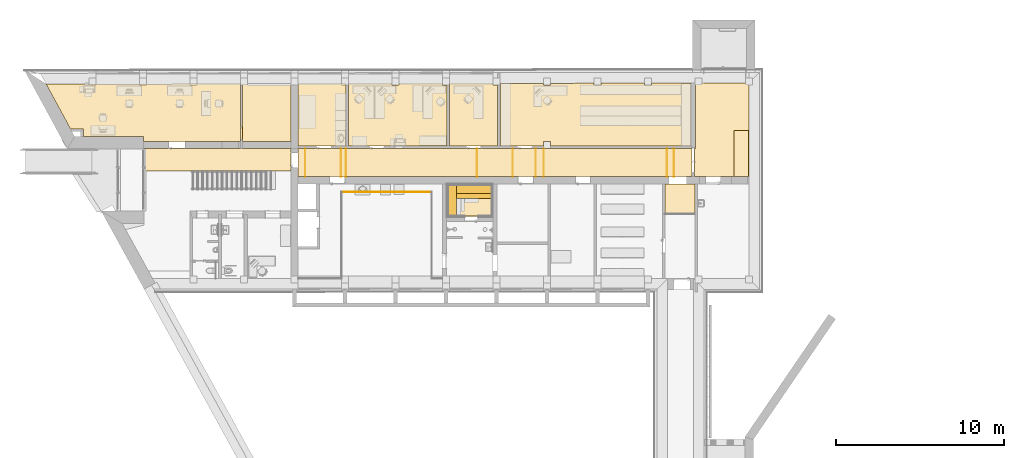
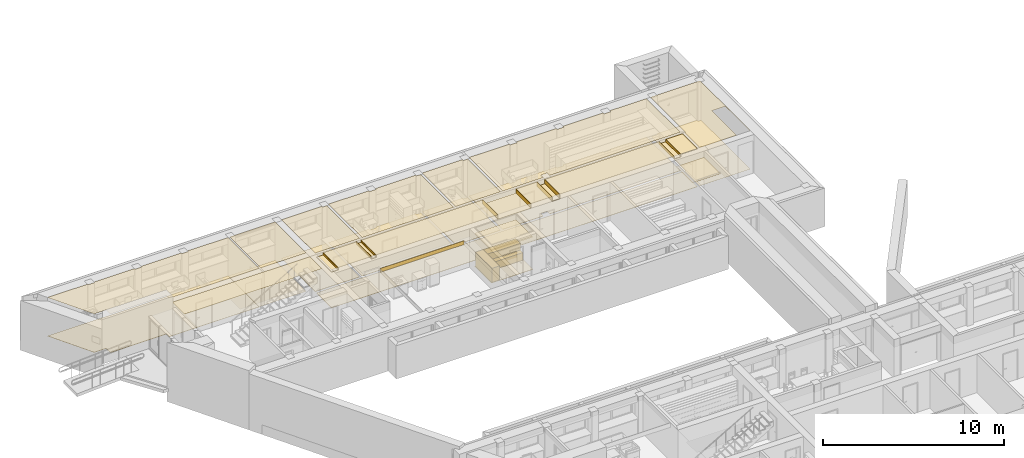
# One storey, part 71 of 127: 42 coverings.
"""IFC2X3 building model written with IfcOpenShell, lengths in millimetres."""

from ifc_helpers import new_model, entity, si_unit, converted_unit, derived_unit, money_unit, direction, frame, origin_with_axes, place, context, subcontext, project, spatial, polyline, outline, extrude, material, type_object, element, save


model = new_model("IFC2X3")

# Units and contexts
model_context = context("Model", 3, precision=1e-05, world=origin_with_axes(), true_north=direction((0.0, 1.0)))
body_context = subcontext(model_context, "Body", "Model", "MODEL_VIEW")
ifc_project = project(units=[si_unit("LENGTHUNIT", "METRE", prefix="MILLI"), si_unit("AREAUNIT", "SQUARE_METRE"), si_unit("VOLUMEUNIT", "CUBIC_METRE"), converted_unit("PLANEANGLEUNIT", "DEGREE", entity("IfcPlaneAngleMeasure", 0.0174532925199), si_unit("PLANEANGLEUNIT", "RADIAN"), dimensions=[0, 0, 0, 0, 0, 0, 0]), si_unit("SOLIDANGLEUNIT", "STERADIAN"), money_unit("EUR"), converted_unit("TIMEUNIT", "Year", entity("IfcTimeMeasure", 31556926.0), si_unit("TIMEUNIT", "SECOND"), dimensions=[0, 0, 1, 0, 0, 0, 0]), si_unit("MASSUNIT", "GRAM", prefix="KILO"), si_unit("THERMODYNAMICTEMPERATUREUNIT", "DEGREE_CELSIUS"), si_unit("LUMINOUSINTENSITYUNIT", "LUMEN"), si_unit("ENERGYUNIT", "JOULE", prefix="MEGA"), derived_unit("THERMALCONDUCTANCEUNIT", [(si_unit("POWERUNIT", "WATT"), 1), (si_unit("LENGTHUNIT", "METRE"), -1), (si_unit("THERMODYNAMICTEMPERATUREUNIT", "KELVIN"), -1)]), derived_unit("SPECIFICHEATCAPACITYUNIT", [(si_unit("ENERGYUNIT", "JOULE"), 1), (si_unit("MASSUNIT", "GRAM", prefix="KILO"), -1), (si_unit("THERMODYNAMICTEMPERATUREUNIT", "KELVIN"), -1)]), derived_unit("MASSDENSITYUNIT", [(si_unit("MASSUNIT", "GRAM", prefix="KILO"), 1), (si_unit("VOLUMEUNIT", "CUBIC_METRE"), -1)])], contexts=[model_context])

# Site, building, storey
site_placement = place(None, origin_with_axes())
site = spatial("IfcSite", under=ifc_project, at=site_placement, Name="Site", CompositionType="ELEMENT")
building_placement = place(site_placement, origin_with_axes())
building = spatial("IfcBuilding", under=site, at=building_placement, Name="Building", CompositionType="ELEMENT")
storey_placement = place(building_placement, origin_with_axes())
storey = spatial("IfcBuildingStorey", under=building, at=storey_placement, Name="1 KORRUS", CompositionType="ELEMENT", Elevation=0.0)

# Coverings
ifc_material_1 = material(Name="Värv")
covering_type_1 = type_object("IfcCoveringType", Name="L-3", PredefinedType="CLADDING")
covering_1_placement = place(storey_placement, frame((15738.082149, 65961.3642064, 2600.0), z_axis=(0.0, 0.0, 1.0), x_axis=(1.0, 0.0, 0.0)))
element("IfcCovering", 1, at=covering_1_placement, inside=storey, type_object=covering_type_1, material=ifc_material_1, Name="Konstruktiivne lagi lauspahtel, värvitud", PredefinedType="CLADDING", context=body_context, shape_type="SweptSolid", body=[
    extrude(outline(polyline([(0.0, 0.0), (0.0, 1337.86329044), (-8755.71034468, 1337.39906333), (-8755.71034468, 1315.38871641), (-8792.82891972, 1315.38871641), (-8792.82891972, 0.0), (0.0, 0.0)])), frame((0.0, 0.0, -1.0), z_axis=(0.0, 0.0, 1.0), x_axis=(1.0, 0.0, 0.0)), (0.0, 0.0, 1.0), 1.0),
])
covering_2_placement = place(storey_placement, frame((1183.02725516, 71149.0340953, 2600.0), z_axis=(0.0, 0.0, 1.0), x_axis=(1.0, 0.0, 0.0)))
element("IfcCovering", 2, at=covering_2_placement, inside=storey, type_object=covering_type_1, material=ifc_material_1, Name="Konstruktiivne lagi lauspahtel, värvitud", PredefinedType="CLADDING", context=body_context, shape_type="SweptSolid", body=[
    extrude(outline(polyline([(0.0, 0.0), (1447.72645574, -2666.7938435), (2211.53884324, -2666.7938435), (2211.53884324, -3132.28097708), (5800.13989265, -3132.28097708), (5800.13989265, -3430.27084441), (11557.8860243, -3429.96560299), (11557.8860243, -56.3931797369), (11560.0368394, 14.3487582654), (8980.03887547, 11.1464795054), (8978.92109242, -59.594424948), (8558.92113143, -59.594424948), (8558.92113143, -58.3920631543), (8558.49065835, 10.6231592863), (5978.49252215, 7.420708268), (5979.08371207, -61.5943419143), (5559.08357883, -61.5943419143), (5559.08357883, 6.90014417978), (2977.45450259, 3.69579832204), (2977.53942585, -61.5943419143), (2557.53946486, -61.5943419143), (2557.53946486, 3.17454520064), (0.0, 0.0)])), frame((0.0, 0.0, -1.0), z_axis=(0.0, 0.0, 1.0), x_axis=(1.0, 0.0, 0.0)), (0.0, 0.0, 1.0), 1.0),
])
covering_3_placement = place(storey_placement, frame((18741.6522749, 71088.8316168, 2600.0), z_axis=(0.0, 0.0, 1.0), x_axis=(1.0, 0.0, 0.0)))
element("IfcCovering", 3, at=covering_3_placement, inside=storey, type_object=covering_type_1, material=ifc_material_1, Name="Konstruktiivne lagi lauspahtel, värvitud", PredefinedType="CLADDING", context=body_context, shape_type="SweptSolid", body=[
    extrude(outline(polyline([(0.0, 0.0), (-3.60689345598, 81.9925428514), (-2582.95753997, 78.7909270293), (-2582.76045012, -3639.23988193), (269.11560463, -3639.23988193), (269.115586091, -2.16386979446e-05), (0.0, 0.0)])), frame((0.0, 0.0, -1.0), z_axis=(0.0, 0.0, 1.0), x_axis=(1.0, 0.0, 0.0)), (0.0, 0.0, 1.0), 1.0),
])
covering_4_placement = place(storey_placement, frame((19160.7678672, 67449.4236553, 2600.0), z_axis=(0.0, 0.0, 1.0), x_axis=(1.0, 0.0, 0.0)))
element("IfcCovering", 4, at=covering_4_placement, inside=storey, type_object=covering_type_1, material=ifc_material_1, Name="Konstruktiivne lagi lauspahtel, värvitud", PredefinedType="CLADDING", context=body_context, shape_type="SweptSolid", body=[
    extrude(outline(polyline([(0.0, 0.0), (5849.98550255, 0.168079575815), (5849.98550255, 3638.9168919), (5580.8790138, 3639.52117681), (5580.10420247, 3728.85147138), (3000.10618995, 3725.64906673), (2999.74919026, 3638.84019604), (2579.74919026, 3638.84019604), (2580.12005054, 3725.12776184), (0.1220380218, 3721.92535719), (0.0, 0.0)])), frame((0.0, 0.0, -1.0), z_axis=(0.0, 0.0, 1.0), x_axis=(1.0, 0.0, 0.0)), (0.0, 0.0, 1.0), 1.0),
])
covering_5_placement = place(storey_placement, frame((25160.7533698, 67449.5917349, 2600.0), z_axis=(0.0, 0.0, 1.0), x_axis=(1.0, 0.0, 0.0)))
element("IfcCovering", 5, at=covering_5_placement, inside=storey, type_object=covering_type_1, material=ifc_material_1, Name="Konstruktiivne lagi lauspahtel, värvitud", PredefinedType="CLADDING", context=body_context, shape_type="SweptSolid", body=[
    extrude(outline(polyline([(0.0, 0.0), (2849.39446856, 0.0), (2849.39446856, 3643.50998437), (2579.39446856, 3642.78145329), (2581.23370122, 3732.408505), (1.23568869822, 3729.20610035), (0.0, 0.0)])), frame((0.0, 0.0, -1.0), z_axis=(0.0, 0.0, 1.0), x_axis=(1.0, 0.0, 0.0)), (0.0, 0.0, 1.0), 1.0),
])
covering_type_2 = type_object("IfcCoveringType", Name="L-5", PredefinedType="CLADDING")
covering_6_placement = place(storey_placement, frame((39573.3287234, 71196.3690374, 2600.0), z_axis=(0.0, 0.0, 1.0), x_axis=(1.0, 0.0, 0.0)))
element("IfcCovering", 6, at=covering_6_placement, inside=storey, type_object=covering_type_2, material=ifc_material_1, Name="Konstruktiivne lagi kaetud tolmutõkkega ja värvitud", PredefinedType="CLADDING", context=body_context, shape_type="SweptSolid", body=[
    extrude(outline(polyline([(180.116590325, 0.0), (180.116590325, -3896.77726113), (130.117016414, -3896.77726113), (130.315520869, -5559.99998133), (2486.30377841, -5559.99998133), (2486.30377841, -2828.76823996), (3337.05605903, -2828.76823996), (3337.05605903, -5559.99998133), (3364.40871248, -5559.99998133), (3364.39146565, 4.49280089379), (180.116590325, 0.0)])), frame((0.0, 0.0, -1.0), z_axis=(0.0, 0.0, 1.0), x_axis=(1.0, 0.0, 0.0)), (0.0, 0.0, 1.0), 1.0),
])
covering_7_placement = place(storey_placement, frame((15738.6947366, 71167.1012365, 2600.0), z_axis=(0.0, 0.0, 1.0), x_axis=(1.0, 0.0, 0.0)))
element("IfcCovering", 7, at=covering_7_placement, inside=storey, type_object=covering_type_2, material=ifc_material_1, Name="Konstruktiivne lagi kaetud tolmutõkkega ja värvitud", PredefinedType="CLADDING", context=body_context, shape_type="SweptSolid", body=[
    extrude(outline(polyline([(0.0, 0.0), (-2897.7814965, -3.59683311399), (-2897.7814965, -3448.02734377), (0.182808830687, -3447.87371859), (0.0, 0.0)])), frame((0.0, 0.0, -1.0), z_axis=(0.0, 0.0, 1.0), x_axis=(1.0, 0.0, 0.0)), (0.0, 0.0, 1.0), 1.0),
])
covering_8_placement = place(storey_placement, frame((28159.6030909, 71182.688757, 2600.0), z_axis=(0.0, 0.0, 1.0), x_axis=(1.0, 0.0, 0.0)))
element("IfcCovering", 8, at=covering_8_placement, inside=storey, type_object=covering_type_2, material=ifc_material_1, Name="Konstruktiivne lagi kaetud tolmutõkkega ja värvitud", PredefinedType="CLADDING", context=body_context, shape_type="SweptSolid", body=[
    extrude(outline(polyline([(0.0, 0.0), (0.0, -3730.72729824), (2581.09073914, -3732.84076262), (2581.02194125, -3448.74385242), (3002.37368264, -3448.64175432), (3002.43859268, -3733.09702208), (11343.8421925, -3733.09702208), (11343.8421925, 8.07115873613), (8998.79024898, 12.0947364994), (9000.38497877, -90.315568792), (8580.38497877, -90.315568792), (8582.18563077, 10.482424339), (6000.96162197, 7.83484559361), (6000.46617575, -90.3155697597), (5582.87921712, -90.2466028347), (5582.52593066, 6.98611290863), (3002.2298325, 3.55636065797), (3000.54724236, -90.3155697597), (2580.54728652, -90.3155697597), (2580.54728652, 0.0), (0.0, 0.0)])), frame((0.0, 0.0, -1.0), z_axis=(0.0, 0.0, 1.0), x_axis=(1.0, 0.0, 0.0)), (0.0, 0.0, 1.0), 1.0),
])
ifc_material_2 = material(Name="Betoon - Ol.Olev konstruktsioon")
covering_type_3 = type_object("IfcCoveringType", Name="P-3", PredefinedType="NOTDEFINED")
covering_9_placement = place(storey_placement, frame((28159.6030909, 71182.688757, 0.0), z_axis=(0.0, 0.0, 1.0), x_axis=(1.0, 0.0, 0.0)))
element("IfcCovering", 9, at=covering_9_placement, inside=storey, type_object=covering_type_3, material=ifc_material_2, Name="Betoon - Ol.Olev konstruktsioon", PredefinedType="NOTDEFINED", context=body_context, shape_type="SweptSolid", body=[
    extrude(outline(polyline([(0.0, 0.0), (0.0, -3730.72729823), (2581.09073914, -3732.84076262), (2581.02194125, -3448.74385242), (3002.37368264, -3448.64175432), (3002.43859268, -3733.09702208), (11343.8421925, -3733.09702208), (11343.8421925, 8.07115873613), (8998.79024898, 12.0947365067), (9000.3849401, -90.3155697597), (8580.38498426, -90.3155697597), (8582.18556194, 10.4824655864), (6000.96162197, 7.83484559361), (6000.46617575, -90.3155697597), (5582.87921712, -90.2466028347), (5582.52593067, 6.98611291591), (3002.2298325, 3.55636065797), (3000.54724236, -90.3155697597), (2580.54728652, -90.3155697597), (2580.54728652, 0.0), (0.0, 0.0)])), frame((0.0, 0.0, -20.0), z_axis=(0.0, 0.0, 1.0), x_axis=(1.0, 0.0, 0.0)), (0.0, 0.0, 1.0), 20.0),
])
ifc_material_3 = material(Name="Puit - Konstruktsioon (1)")
covering_10_placement = place(storey_placement, frame((25075.1366535, 63317.8824025, 0.0), z_axis=(0.0, 0.0, 1.0), x_axis=(1.0, 0.0, 0.0)))
element("IfcCovering", 10, at=covering_10_placement, inside=storey, type_object=covering_type_3, material=ifc_material_3, Name="Puit - Konstruktsioon (1)", PredefinedType="NOTDEFINED", context=body_context, shape_type="SweptSolid", body=[
    extrude(outline(polyline([(0.0, 0.0), (500.0, 0.0), (500.0, 1811.48665511), (0.0, 1811.48665511), (0.0, 0.0)])), origin_with_axes(), (0.0, 0.0, 1.0), 950.0),
])
ifc_material_4 = material(Name="Kipsplaat")
covering_type_4 = type_object("IfcCoveringType", Name="L-4", PredefinedType="CEILING")
covering_11_placement = place(storey_placement, frame((38500.574353, 65636.3690561, 2550.0), z_axis=(0.0, 0.0, 1.0), x_axis=(1.0, 0.0, 0.0)))
element("IfcCovering", 11, at=covering_11_placement, inside=storey, type_object=covering_type_4, material=ifc_material_4, Name="Ripplagi", PredefinedType="CEILING", context=body_context, shape_type="SweptSolid", body=[
    extrude(outline(polyline([(0.0, 0.0), (1052.27443769, 0.0), (1052.07594285, 1663.20478481), (0.0, 1663.22155023), (0.0, 0.0)])), origin_with_axes(), (0.0, 0.0, 1.0), 15.0),
])
covering_12_placement = place(storey_placement, frame((28924.5252262, 65636.3690561, 2550.0), z_axis=(0.0, 0.0, 1.0), x_axis=(1.0, 0.0, 0.0)))
element("IfcCovering", 12, at=covering_12_placement, inside=storey, type_object=covering_type_4, material=ifc_material_4, Name="Ripplagi", PredefinedType="CEILING", context=body_context, shape_type="SweptSolid", body=[
    extrude(outline(polyline([(0.0, 0.0), (1337.16135864, 0.0), (1337.16135864, 1663.22258173), (0.0, 1663.22258173), (0.0, 0.0)])), origin_with_axes(), (0.0, 0.0, 1.0), 15.0),
])
covering_13_placement = place(storey_placement, frame((38064.8385158, 67299.5917236, 2550.0), z_axis=(0.0, 0.0, 1.0), x_axis=(1.0, 0.0, 0.0)))
element("IfcCovering", 13, at=covering_13_placement, inside=storey, type_object=covering_type_4, material=ifc_material_4, Name="Ripplagi", PredefinedType="CEILING", context=body_context, shape_type="SweptSolid", body=[
    extrude(outline(polyline([(0.0, 0.0), (-7303.86304197, 0.0), (-7303.86304197, -1663.22266751), (0.0, -1663.22266751), (0.0, 0.0)])), origin_with_axes(), (0.0, 0.0, 1.0), 15.0),
])
covering_14_placement = place(storey_placement, frame((26797.6733887, 67299.5915736, 2550.0), z_axis=(0.0, 0.0, 1.0), x_axis=(1.0, 0.0, 0.0)))
element("IfcCovering", 14, at=covering_14_placement, inside=storey, type_object=covering_type_4, material=ifc_material_4, Name="Ripplagi", PredefinedType="CEILING", context=body_context, shape_type="SweptSolid", body=[
    extrude(outline(polyline([(0.0, 0.0), (-7784.64764503, 0.0), (-7784.64764503, -1663.22259291), (0.0, -1663.22259291), (0.0, 0.0)])), origin_with_axes(), (0.0, 0.0, 1.0), 15.0),
])
covering_15_placement = place(storey_placement, frame((16597.6648176, 67299.5915736, 2550.0), z_axis=(0.0, 0.0, 1.0), x_axis=(1.0, 0.0, 0.0)))
element("IfcCovering", 15, at=covering_15_placement, inside=storey, type_object=covering_type_4, material=ifc_material_4, Name="Ripplagi", PredefinedType="CEILING", context=body_context, shape_type="SweptSolid", body=[
    extrude(outline(polyline([(0.0, 0.0), (-0.147140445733, -1663.22259291), (2119.11913881, -1663.22259291), (2119.11913881, 0.0), (0.0, 0.0)])), origin_with_axes(), (0.0, 0.0, 1.0), 15.0),
])
covering_type_5 = type_object("IfcCoveringType", Name="P-5", PredefinedType="NOTDEFINED")
covering_16_placement = place(storey_placement, frame((25038.1366503, 63280.8823993, 0.0), z_axis=(0.0, 0.0, 1.0), x_axis=(1.0, 0.0, 0.0)))
element("IfcCovering", 16, at=covering_16_placement, inside=storey, type_object=covering_type_5, material=ifc_material_2, Name="Betoon - Ol.Olev konstruktsioon", PredefinedType="NOTDEFINED", context=body_context, shape_type="SweptSolid", body=[
    extrude(outline(polyline([(0.0, 0.0), (2646.5908115, 0.0), (2646.5908115, 1885.48665838), (0.0, 1885.48665838), (0.0, 0.0)])), frame((0.0, 0.0, -20.0), z_axis=(0.0, 0.0, 1.0), x_axis=(1.0, 0.0, 0.0)), (0.0, 0.0, 1.0), 20.0),
])
covering_type_6 = type_object("IfcCoveringType", Name="P-2", PredefinedType="NOTDEFINED")
covering_17_placement = place(storey_placement, frame((25163.8036057, 67449.5917349, 0.0), z_axis=(0.0, 0.0, 1.0), x_axis=(1.0, 0.0, 0.0)))
element("IfcCovering", 17, at=covering_17_placement, inside=storey, type_object=covering_type_6, material=ifc_material_2, Name="Betoon - Ol.Olev konstruktsioon", PredefinedType="NOTDEFINED", context=body_context, shape_type="SweptSolid", body=[
    extrude(outline(polyline([(0.0, 0.0), (2846.344228, 0.0), (2846.344228, 3643.50998437), (2576.34423478, 3642.78143222), (2578.16731981, 3731.64038558), (0.0, 3731.87977495), (0.0, 0.0)])), frame((0.0, 0.0, -20.0), z_axis=(0.0, 0.0, 1.0), x_axis=(1.0, 0.0, 0.0)), (0.0, 0.0, 1.0), 20.0),
])
covering_18_placement = place(storey_placement, frame((19160.7678672, 67449.591735, 0.0), z_axis=(0.0, 0.0, 1.0), x_axis=(1.0, 0.0, 0.0)))
element("IfcCovering", 18, at=covering_18_placement, inside=storey, type_object=covering_type_6, material=ifc_material_2, Name="Betoon - Ol.Olev konstruktsioon", PredefinedType="NOTDEFINED", context=body_context, shape_type="SweptSolid", body=[
    extrude(outline(polyline([(0.0, 0.0), (5849.98550255, 0.0), (5849.98550255, 3638.74881226), (5580.87900392, 3639.35308621), (5580.10425819, 3728.68342945), (2999.64141054, 3725.48041018), (2999.74916202, 3638.6721012), (2579.74921715, 3638.6721012), (2580.12044095, 3724.95968268), (0.122043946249, 3721.75725597), (0.0, 0.0)])), frame((0.0, 0.0, -20.0), z_axis=(0.0, 0.0, 1.0), x_axis=(1.0, 0.0, 0.0)), (0.0, 0.0, 1.0), 20.0),
])
covering_19_placement = place(storey_placement, frame((19010.7678796, 71171.1626746, 0.0), z_axis=(0.0, 0.0, 1.0), x_axis=(1.0, 0.0, 0.0)))
element("IfcCovering", 19, at=covering_19_placement, inside=storey, type_object=covering_type_6, material=ifc_material_2, Name="Betoon - Ol.Olev konstruktsioon", PredefinedType="NOTDEFINED", context=body_context, shape_type="SweptSolid", body=[
    extrude(outline(polyline([(0.0, 0.0), (-2852.0731446, -3.54013071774), (-2851.87605475, -3721.57093968), (0.0, -3721.57093968), (0.0, 0.0)])), frame((0.0, 0.0, -20.0), z_axis=(0.0, 0.0, 1.0), x_axis=(1.0, 0.0, 0.0)), (0.0, 0.0, 1.0), 20.0),
])
covering_20_placement = place(storey_placement, frame((1183.02725516, 71149.0340424, 0.0), z_axis=(0.0, 0.0, 1.0), x_axis=(1.0, 0.0, 0.0)))
element("IfcCovering", 20, at=covering_20_placement, inside=storey, type_object=covering_type_6, material=ifc_material_2, Name="Betoon - Ol.Olev konstruktsioon", PredefinedType="NOTDEFINED", context=body_context, shape_type="SweptSolid", body=[
    extrude(outline(polyline([(0.0, 0.0), (1447.7264541, -2666.79384457), (2211.53881358, -2666.79384457), (2211.53881358, -3132.28099957), (5800.13989026, -3132.28099957), (5800.13989026, -3430.27070763), (11557.8859849, -3429.96552301), (11557.8859849, 14.3462607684), (0.0, 0.0)])), frame((0.0, 0.0, -20.0), z_axis=(0.0, 0.0, 1.0), x_axis=(1.0, 0.0, 0.0)), (0.0, 0.0, 1.0), 20.0),
])
covering_21_placement = place(storey_placement, frame((25574.8828577, 65129.3690426, 0.0), z_axis=(0.0, 0.0, 1.0), x_axis=(1.0, 0.0, 0.0)))
element("IfcCovering", 21, at=covering_21_placement, inside=storey, type_object=covering_type_6, material=ifc_material_3, Name="Puit - Konstruktsioon (1)", PredefinedType="NOTDEFINED", context=body_context, shape_type="SweptSolid", body=[
    extrude(outline(polyline([(0.0, 0.0), (0.0, -499.999985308), (2072.84460081, -499.999985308), (2072.84460081, 0.0), (0.0, 0.0)])), origin_with_axes(), (0.0, 0.0, 1.0), 950.0),
])
covering_type_7 = type_object("IfcCoveringType", Name="P-4", PredefinedType="NOTDEFINED")
covering_22_placement = place(storey_placement, frame((12743.0640946, 67719.2275328, 0.0), z_axis=(0.0, 0.0, 1.0), x_axis=(1.0, 0.0, 0.0)))
element("IfcCovering", 22, at=covering_22_placement, inside=storey, type_object=covering_type_7, material=ifc_material_2, Name="Betoon - Ol.Olev konstruktsioon", PredefinedType="NOTDEFINED", context=body_context, shape_type="SweptSolid", body=[
    extrude(outline(polyline([(0.0, 0.0), (2995.81346117, 0.0), (2995.81346117, 3444.15539794), (0.0, 3444.15539794), (0.0, 0.0)])), frame((0.0, 0.0, -2.0), z_axis=(0.0, 0.0, 1.0), x_axis=(1.0, 0.0, 0.0)), (0.0, 0.0, 1.0), 2.0),
])
covering_23_placement = place(storey_placement, frame((25574.8828577, 64329.3690573, 0.0), z_axis=(0.0, 0.0, 1.0), x_axis=(1.0, 0.0, 0.0)))
element("IfcCovering", 23, at=covering_23_placement, inside=storey, type_object=covering_type_7, material=ifc_material_3, Name="Puit - Konstruktsioon (1)", PredefinedType="NOTDEFINED", context=body_context, shape_type="SweptSolid", body=[
    extrude(outline(polyline([(0.0, 0.0), (2077.15596552, 0.0), (2077.15596552, 300.0), (0.0, 300.0), (0.0, 0.0)])), origin_with_axes(), (0.0, 0.0, 1.0), 500.0),
])
covering_type_8 = type_object("IfcCoveringType", Name="P-1", PredefinedType="NOTDEFINED")
covering_24_placement = place(storey_placement, frame((39703.445749, 67299.5858257, 0.0), z_axis=(0.0, 0.0, 1.0), x_axis=(1.0, 0.0, 0.0)))
element("IfcCovering", 24, at=covering_24_placement, inside=storey, type_object=covering_type_8, material=ifc_material_2, Name="Betoon - Ol.Olev konstruktsioon", PredefinedType="NOTDEFINED", context=body_context, shape_type="SweptSolid", body=[
    extrude(outline(polyline([(0.0, 0.0), (0.198495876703, -1663.21676967), (3234.29065877, -1663.21676967), (3234.27457347, 3791.28045382), (3039.7275539, 3792.78749687), (3040.56606217, 3901.0355734), (460.59417764, 3897.83318983), (457.315679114, 3792.78749687), (50.2006354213, 3786.91246665), (49.9994862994, 0.00596979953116), (0.0, 0.0)])), frame((0.0, 0.0, -2.0), z_axis=(0.0, 0.0, 1.0), x_axis=(1.0, 0.0, 0.0)), (0.0, 0.0, 1.0), 2.0),
])
covering_25_placement = place(storey_placement, frame((16158.8775557, 65636.3690561, 0.0), z_axis=(0.0, 0.0, 1.0), x_axis=(1.0, 0.0, 0.0)))
element("IfcCovering", 25, at=covering_25_placement, inside=storey, type_object=covering_type_8, material=ifc_material_2, Name="Põrandakate", PredefinedType="NOTDEFINED", context=body_context, shape_type="SweptSolid", body=[
    extrude(outline(polyline([(0.0, 0.0), (23394.7666711, 0.0), (23394.5681936, 1663.20477877), (0.0, 1663.22267884), (0.0, 0.0)])), frame((0.0, 0.0, -20.0), z_axis=(0.0, 0.0, 1.0), x_axis=(1.0, 0.0, 0.0)), (0.0, 0.0, 1.0), 20.0),
])
covering_type_9 = type_object("IfcCoveringType", Name="L-6", PredefinedType="CEILING")
covering_26_placement = place(storey_placement, frame((18703.7839564, 65636.3690561, 2400.0), z_axis=(0.0, 0.0, 1.0), x_axis=(1.0, 0.0, 0.0)))
element("IfcCovering", 26, at=covering_26_placement, inside=storey, type_object=covering_type_9, material=ifc_material_4, Name="Kahekordne kipsplaadist ripplagi", PredefinedType="CEILING", context=body_context, shape_type="SweptSolid", body=[
    extrude(outline(polyline([(0.0, 0.0), (309.241787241, 0.0), (309.241787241, 1663.22267884), (0.0, 1663.22267884), (0.0, 0.0)])), origin_with_axes(), (0.0, 0.0, 1.0), 26.0),
])
covering_27_placement = place(storey_placement, frame((37943.462216, 65216.3690599, 2150.0), z_axis=(0.0, 0.0, 1.0), x_axis=(1.0, 0.0, 0.0)))
element("IfcCovering", 27, at=covering_27_placement, inside=storey, type_object=covering_type_9, material=ifc_material_4, Name="Kahekordne kipsplaadist ripplagi", PredefinedType="CEILING", context=body_context, shape_type="SweptSolid", body=[
    extrude(outline(polyline([(0.0, 0.0), (0.0, -1801.49395735), (1789.78529853, -1801.49395735), (1789.78529853, 0.0), (0.0, 0.0)])), origin_with_axes(), (0.0, 0.0, 1.0), 26.0),
])
covering_28_placement = place(storey_placement, frame((38064.8385158, 65636.3690561, 2375.0), z_axis=(0.0, 0.0, 1.0), x_axis=(1.0, 0.0, 0.0)))
element("IfcCovering", 28, at=covering_28_placement, inside=storey, type_object=covering_type_9, material=ifc_material_4, Name="Kahekordne kipsplaadist ripplagi", PredefinedType="CEILING", context=body_context, shape_type="SweptSolid", body=[
    extrude(outline(polyline([(0.0, 0.0), (432.693672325, 0.0), (432.693672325, 1663.22267884), (0.0, 1663.22267884), (0.0, 0.0)])), origin_with_axes(), (0.0, 0.0, 1.0), 26.0),
])
covering_29_placement = place(storey_placement, frame((26797.6733887, 65636.3690561, 2250.0), z_axis=(0.0, 0.0, 1.0), x_axis=(1.0, 0.0, 0.0)))
element("IfcCovering", 29, at=covering_29_placement, inside=storey, type_object=covering_type_9, material=ifc_material_4, Name="Kahekordne kipsplaadist ripplagi", PredefinedType="CEILING", context=body_context, shape_type="SweptSolid", body=[
    extrude(outline(polyline([(0.0, 0.0), (2126.85177341, 0.0), (2126.85177341, 1663.22267884), (0.0, 1663.22267884), (0.0, 0.0)])), origin_with_axes(), (0.0, 0.0, 1.0), 26.0),
])
covering_30_placement = place(storey_placement, frame((30261.6865849, 65636.3690561, 2250.0), z_axis=(0.0, 0.0, 1.0), x_axis=(1.0, 0.0, 0.0)))
element("IfcCovering", 30, at=covering_30_placement, inside=storey, type_object=covering_type_9, material=ifc_material_4, Name="Kahekordne kipsplaadist ripplagi", PredefinedType="CEILING", context=body_context, shape_type="SweptSolid", body=[
    extrude(outline(polyline([(0.0, 0.0), (499.288873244, 0.0), (499.288873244, 1663.22267884), (0.0, 1663.22267884), (0.0, 0.0)])), origin_with_axes(), (0.0, 0.0, 1.0), 26.0),
])
covering_31_placement = place(storey_placement, frame((16158.8998227, 65636.3690561, 2400.0), z_axis=(0.0, 0.0, 1.0), x_axis=(1.0, 0.0, 0.0)))
element("IfcCovering", 31, at=covering_31_placement, inside=storey, type_object=covering_type_9, material=ifc_material_4, Name="Kahekordne kipsplaadist ripplagi", PredefinedType="CEILING", context=body_context, shape_type="SweptSolid", body=[
    extrude(outline(polyline([(0.0, 0.0), (438.644415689, 0.0), (438.644415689, 1662.88074425), (0.0, 1662.88074425), (0.0, 0.0)])), origin_with_axes(), (0.0, 0.0, 1.0), 26.0),
])
covering_type_10 = type_object("IfcCoveringType", Name="Kips", PredefinedType="CEILING")
covering_32_placement = place(storey_placement, frame((19013.0257436, 67449.5917349, 2426.0), z_axis=(0.0, 0.0, 1.0), x_axis=(0.0, -1.0, 0.0)))
element("IfcCovering", 32, at=covering_32_placement, inside=storey, type_object=covering_type_10, material=ifc_material_4, Name="Kipsplaat", PredefinedType="CEILING", context=body_context, shape_type="SweptSolid", body=[
    extrude(outline(polyline([(150.0, -13.0), (1813.22267884, -13.0), (1813.22267884, 0.0), (150.0, 0.0), (150.0, -13.0)])), origin_with_axes(), (0.0, 0.0, 1.0), 124.0),
])
covering_33_placement = place(storey_placement, frame((18703.7839564, 65636.3690561, 2426.0), z_axis=(0.0, 0.0, 1.0), x_axis=(0.0, 1.0, 0.0)))
element("IfcCovering", 33, at=covering_33_placement, inside=storey, type_object=covering_type_10, material=ifc_material_4, Name="Kipsplaat", PredefinedType="CEILING", context=body_context, shape_type="SweptSolid", body=[
    extrude(outline(polyline([(0.0, -13.0), (1663.22267884, -13.0), (1663.22267884, 0.0), (0.0, 0.0), (0.0, -13.0)])), origin_with_axes(), (0.0, 0.0, 1.0), 124.0),
])
covering_34_placement = place(storey_placement, frame((38497.5321881, 65636.3690561, 2400.0), z_axis=(0.0, 0.0, 1.0), x_axis=(0.0, 1.0, 0.0)))
element("IfcCovering", 34, at=covering_34_placement, inside=storey, type_object=covering_type_10, material=ifc_material_4, Name="Kipsplaat", PredefinedType="CEILING", context=body_context, shape_type="SweptSolid", body=[
    extrude(outline(polyline([(0.0, 0.0), (1663.22267884, 0.0), (1663.22267884, 13.0), (0.0, 13.0), (0.0, 0.0)])), origin_with_axes(), (0.0, 0.0, 1.0), 150.0),
])
covering_35_placement = place(storey_placement, frame((38064.8385158, 65636.3690561, 2400.0), z_axis=(0.0, 0.0, 1.0), x_axis=(0.0, 1.0, 0.0)))
element("IfcCovering", 35, at=covering_35_placement, inside=storey, type_object=covering_type_10, material=ifc_material_4, Name="Kipsplaat", PredefinedType="CEILING", context=body_context, shape_type="SweptSolid", body=[
    extrude(outline(polyline([(0.0, -13.0), (1663.22267884, -13.0), (1663.22267884, 0.0), (0.0, 0.0), (0.0, -13.0)])), origin_with_axes(), (0.0, 0.0, 1.0), 150.0),
])
covering_36_placement = place(storey_placement, frame((28924.5251621, 65636.3690561, 2276.0), z_axis=(0.0, 0.0, 1.0), x_axis=(0.0, 1.0, 0.0)))
element("IfcCovering", 36, at=covering_36_placement, inside=storey, type_object=covering_type_10, material=ifc_material_4, Name="Kipsplaat", PredefinedType="CEILING", context=body_context, shape_type="SweptSolid", body=[
    extrude(outline(polyline([(0.0, 0.0), (1663.22267884, 0.0), (1663.22267884, 13.0), (0.0, 13.0), (0.0, 0.0)])), origin_with_axes(), (0.0, 0.0, 1.0), 274.0),
])
covering_37_placement = place(storey_placement, frame((26784.6733887, 65636.3690561, 2276.0), z_axis=(0.0, 0.0, 1.0), x_axis=(0.0, 1.0, 0.0)))
element("IfcCovering", 37, at=covering_37_placement, inside=storey, type_object=covering_type_10, material=ifc_material_4, Name="Kipsplaat", PredefinedType="CEILING", context=body_context, shape_type="SweptSolid", body=[
    extrude(outline(polyline([(0.0, -13.0), (1663.22267884, -13.0), (1663.22267884, 0.0), (0.0, 0.0), (0.0, -13.0)])), origin_with_axes(), (0.0, 0.0, 1.0), 274.0),
])
covering_38_placement = place(storey_placement, frame((18740.4462273, 64724.9900263, 2050.0), z_axis=(0.0, 0.0, 1.0), x_axis=(1.0, 0.0, 0.0)))
element("IfcCovering", 38, at=covering_38_placement, inside=storey, type_object=covering_type_10, material=ifc_material_4, Name="Kipsplaat", PredefinedType="CEILING", context=body_context, shape_type="SweptSolid", body=[
    extrude(outline(polyline([(0.0, 0.0), (5348.05298416, 0.0), (5361.05150199, 12.9999999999), (-13.0, 12.9999999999), (0.0, 0.0)])), origin_with_axes(), (0.0, 0.0, 1.0), 250.0),
])
covering_39_placement = place(storey_placement, frame((30261.6865849, 65636.3690561, 2276.0), z_axis=(0.0, 0.0, 1.0), x_axis=(0.0, 1.0, 0.0)))
element("IfcCovering", 39, at=covering_39_placement, inside=storey, type_object=covering_type_10, material=ifc_material_4, Name="Kipsplaat", PredefinedType="CEILING", context=body_context, shape_type="SweptSolid", body=[
    extrude(outline(polyline([(0.0, -13.0), (1663.22267884, -13.0), (1663.22267884, 0.0), (0.0, 0.0), (0.0, -13.0)])), origin_with_axes(), (0.0, 0.0, 1.0), 274.0),
])
covering_40_placement = place(storey_placement, frame((30760.9754581, 65636.3690561, 2276.0), z_axis=(0.0, 0.0, 1.0), x_axis=(0.0, 1.0, 0.0)))
element("IfcCovering", 40, at=covering_40_placement, inside=storey, type_object=covering_type_10, material=ifc_material_4, Name="Kipsplaat", PredefinedType="CEILING", context=body_context, shape_type="SweptSolid", body=[
    extrude(outline(polyline([(0.0, 0.0), (1663.22267884, 0.0), (1663.22267884, 13.0), (0.0, 13.0), (0.0, 0.0)])), origin_with_axes(), (0.0, 0.0, 1.0), 274.0),
])
covering_41_placement = place(storey_placement, frame((16597.5442384, 67449.5917349, 2426.0), z_axis=(0.0, 0.0, 1.0), x_axis=(0.0, -1.0, 0.0)))
element("IfcCovering", 41, at=covering_41_placement, inside=storey, type_object=covering_type_10, material=ifc_material_4, Name="Kipsplaat", PredefinedType="CEILING", context=body_context, shape_type="SweptSolid", body=[
    extrude(outline(polyline([(150.0, -13.0), (1813.22267884, -13.0), (1813.22267884, 0.0), (150.0, 0.0), (150.0, -13.0)])), origin_with_axes(), (0.0, 0.0, 1.0), 124.0),
])
ifc_material_5 = material(Name="Puitplaat")
covering_type_11 = type_object("IfcCoveringType", Name="L-7", PredefinedType="CEILING")
covering_42_placement = place(storey_placement, frame((25059.5773901, 63302.3231391, 2150.0), z_axis=(0.0, 0.0, 1.0), x_axis=(1.0, 0.0, 0.0)))
element("IfcCovering", 42, at=covering_42_placement, inside=storey, type_object=covering_type_11, material=ifc_material_5, Name="Kahekordne niiskuskindlast kipsplaadist ripplag", PredefinedType="CEILING", context=body_context, shape_type="SweptSolid", body=[
    extrude(outline(polyline([(0.0, 0.0), (2603.7093318, 0.0), (2603.7093318, 1842.60517874), (0.0, 1842.60517874), (0.0, 0.0)])), origin_with_axes(), (0.0, 0.0, 1.0), 87.0),
])

save(model, "model.ifc")
